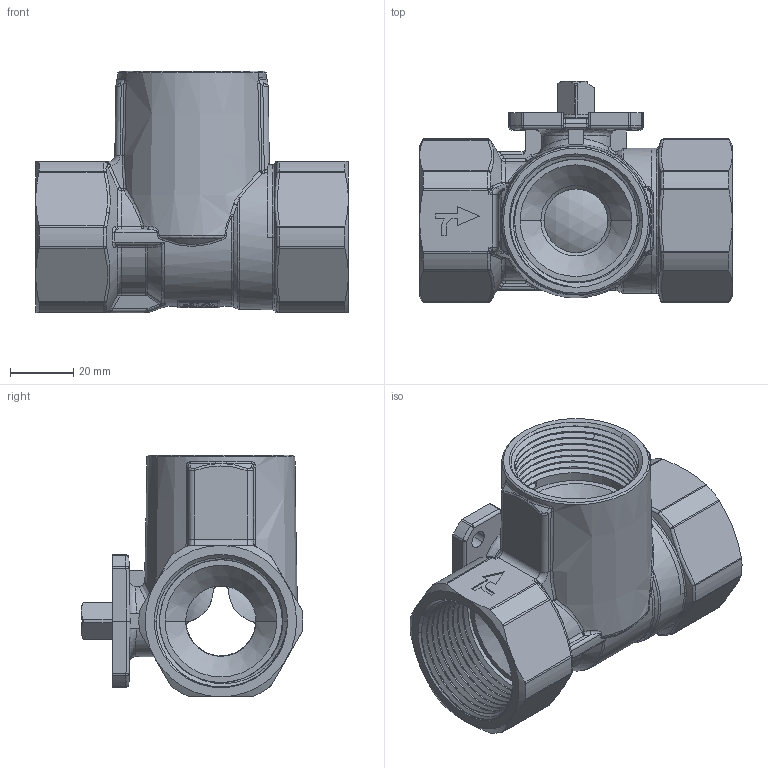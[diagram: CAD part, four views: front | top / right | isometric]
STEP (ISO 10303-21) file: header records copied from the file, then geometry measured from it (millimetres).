
FILE_DESCRIPTION((''),'2;1');
FILE_NAME('H980T1032_1527_SW0001','2015-05-21T',('64ciro'),('Vir spa'),'PRO/ENGINEER BY PARAMETRIC TECHNOLOGY CORPORATION, 2010280','PRO/ENGINEER BY PARAMETRIC TECHNOLOGY CORPORATION, 2010280','');
FILE_SCHEMA(('CONFIG_CONTROL_DESIGN'));
Products named in the file (1): H980T1032_1527_SW0001
Bounding box: 99.2 x 70.28 x 76.6 mm (x, y, z)
Volume: 119352.9 mm3; surface area: 59623.3 mm2
Topology: 1 solids, 1 shells, 1270 faces, 3249 edges, 2039 vertices
Faces by surface type: plane 599, cylinder 269, bspline 201, cone 84, torus 83, sphere 32, extrusion 2
Entity records: 58333 total; most frequent: CARTESIAN_POINT 29218, ORIENTED_EDGE 6498, DIRECTION 5387, EDGE_CURVE 3249, VERTEX_POINT 2039, AXIS2_PLACEMENT_3D 1800, VECTOR 1787, LINE 1785
